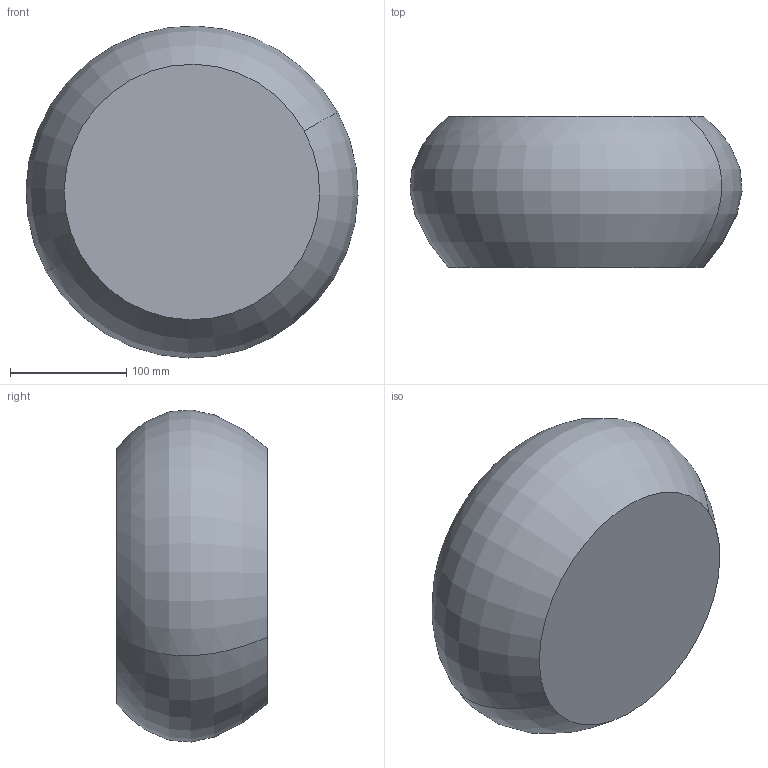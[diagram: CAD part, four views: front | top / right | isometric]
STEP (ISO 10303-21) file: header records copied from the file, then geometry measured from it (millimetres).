
FILE_DESCRIPTION(('CATIA V5 STEP Exchange'),'2;1');
FILE_NAME('C:\_Andres\UNIVERSIDAD\IQS\ASIGNATURAS\DAO\EXF\EXF-15161c\1original\Purroy_Trillo_Ej10-decora_v20.stp','2016-03-04T22:24:13+00:00',('none'),('none'),'CATIA Version 5 Release 20 SP 1 (IN-10)','CATIA V5 STEP AP203','none');
FILE_SCHEMA(('CONFIG_CONTROL_DESIGN'));
Length unit declared in the file: millimetre
Products named in the file (1): Purroy_Trillo_Ej10-decora_v20
Bounding box: 285.93 x 130 x 285.93 mm (x, y, z)
Volume: 7169225.1 mm3; surface area: 199576.5 mm2
Topology: 1 solids, 1 shells, 4 faces, 6 edges, 4 vertices
Faces by surface type: revolution 2, plane 2
Entity records: 166 total; most frequent: CARTESIAN_POINT 50, DIRECTION 12, ORIENTED_EDGE 12, AXIS2_PLACEMENT_3D 8, EDGE_CURVE 6, ADVANCED_FACE 4, B_SPLINE_CURVE_WITH_KNOTS 4, CC_DESIGN_PERSON_AND_ORGANIZATION_ASSIGNMENT 4
